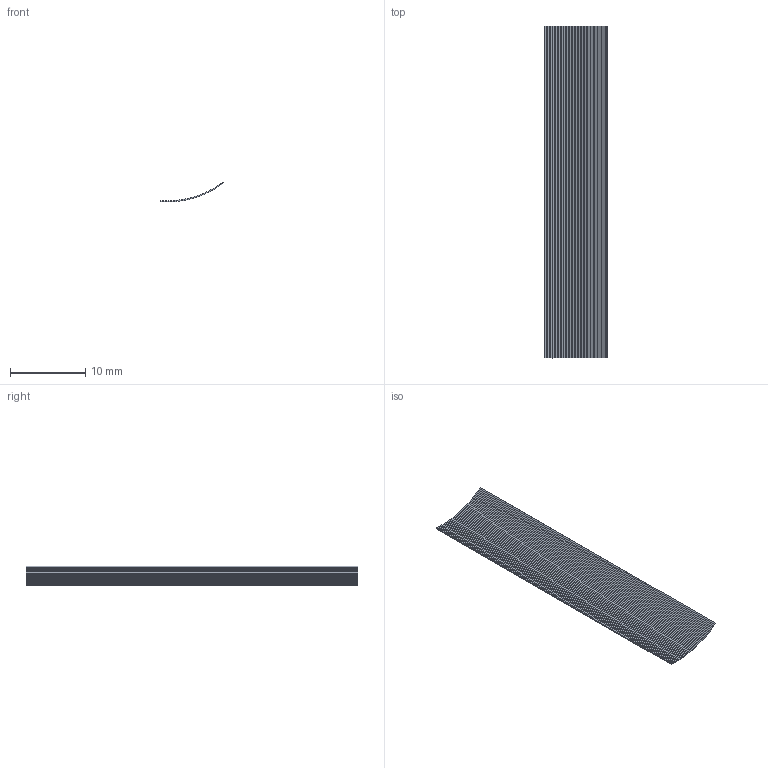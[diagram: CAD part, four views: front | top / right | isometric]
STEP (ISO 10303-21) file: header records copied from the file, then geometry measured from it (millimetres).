
FILE_DESCRIPTION(('Open CASCADE Model'),'2;1');
FILE_NAME('Open CASCADE Shape Model','2026-10-04T01:02:32',('Author'),( 'Open CASCADE'),'Open CASCADE STEP processor 8.0','Open CASCADE 8.0' ,'Unknown');
FILE_SCHEMA(('AUTOMOTIVE_DESIGN { 1 0 10303 214 1 1 1 1 }'));
Length unit declared in the file: millimetre
Products named in the file (1): Open CASCADE STEP translator 8.0 285
Bounding box: 8.36 x 44 x 2.62 mm (x, y, z)
Volume: 58.5 mm3; surface area: 795.5 mm2
Topology: 1 solids, 1 shells, 88 faces, 258 edges, 172 vertices
Faces by surface type: plane 88
Entity records: 6226 total; most frequent: CARTESIAN_POINT 1035, DIRECTION 952, LINE 774, VECTOR 774, ORIENTED_EDGE 516, PCURVE 516, DEFINITIONAL_REPRESENTATION 516, EDGE_CURVE 258
